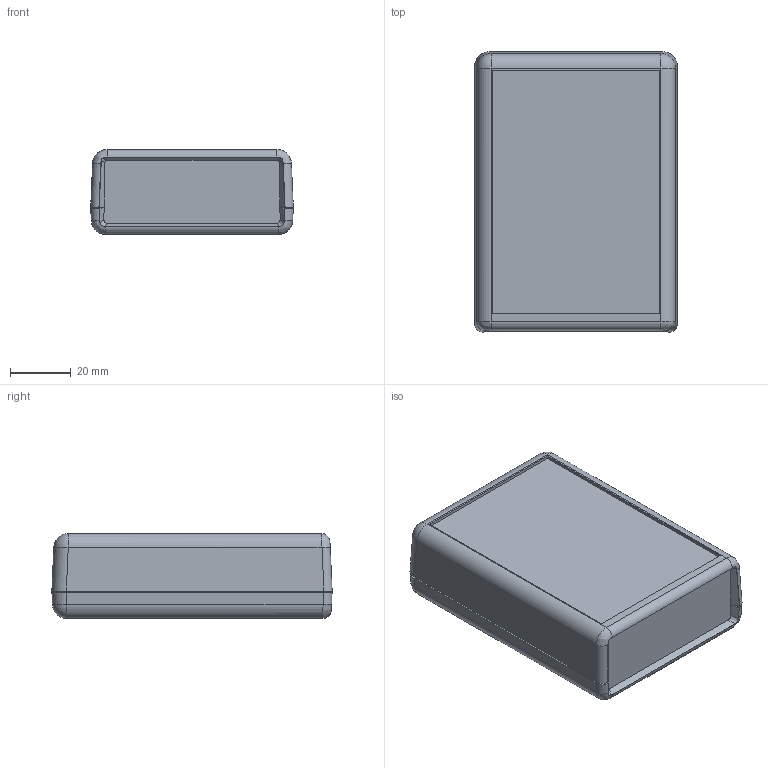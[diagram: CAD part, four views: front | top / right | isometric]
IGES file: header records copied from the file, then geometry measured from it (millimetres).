
Global section: file name: 1593P.iam; native system: Autodesk Inventor 2016; preprocessor: unknown; author: MBeerman; date: 20160425.153549; units: millimetre
Bounding box: 66.5 x 92 x 27.9 mm (x, y, z)
Volume: 53873.9 mm3; surface area: 51652.6 mm2
Topology: 9 solids, 9 shells, 730 faces, 1945 edges, 1289 vertices
Faces by surface type: plane 417, revolution 121, bspline 80, cylinder 74, cone 26, sphere 12
Full cylindrical faces by diameter (mm): 2.845 x4
